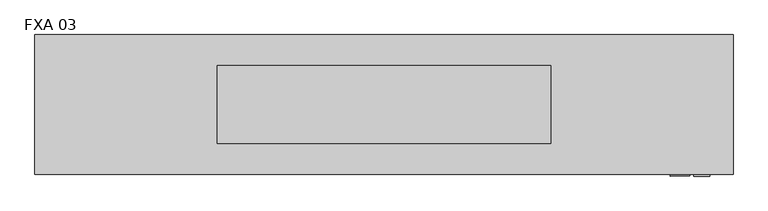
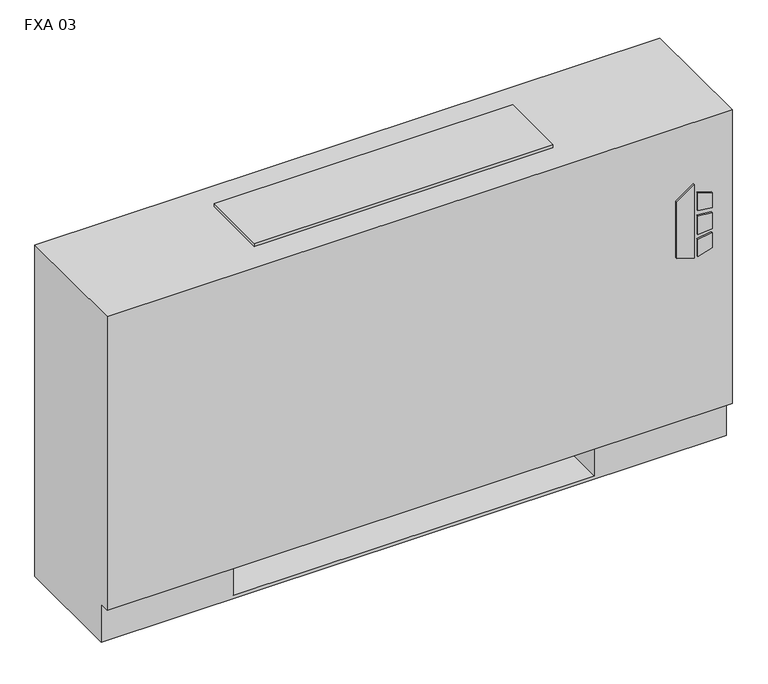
"""IFC4 building model written with IfcOpenShell, lengths in millimetres: proxy geometry, Vertical_Fan_Coil_Unit_-_FXA_-_IEC_-_2-Pipe_TS-FR_RH_2022 : FXA 03."""

from ifc_helpers import new_model, si_unit, point, frame, frame_2d, origin, place, context, project, spatial, polyline, circle_curve, trimmed, segment, composite_curve, outline, extrude, source, transform, mapped, element, save
from ifc_brep_helpers import plane_surface, revolved_surface, advanced_brep


def fxa_03_1cd07f17(model_context):
    return source(origin(), model_context, "Body", "SolidModel", [
        extrude(outline(polyline([(391.6086829, 620.7868862), (381.6606126, 652.9602728), (523.831537, 652.9602728), (500.8095309, 620.7868862), (391.6086829, 620.7868862)])), frame((0.0, 12.7, 0.0), z_axis=(0.0, 1.0, 0.0), x_axis=(0.0, 0.0, 1.0)), (0.0, 0.0, 1.0), 3.175),
        extrude(outline(polyline([(470.6079683, 659.7186058), (467.4055757, 685.8), (496.6344168, 685.8), (504.6988318, 659.7186058), (470.6079683, 659.7186058)])), frame((0.0, 12.7, 0.0), z_axis=(0.0, 1.0, 0.0), x_axis=(0.0, 0.0, 1.0)), (0.0, 0.0, 1.0), 3.175),
        extrude(outline(polyline([(418.7444414, 685.8), (415.0789404, 659.7186058), (381.6606126, 659.7186058), (390.2948498, 685.8), (418.7444414, 685.8)])), frame((0.0, 12.7, 0.0), z_axis=(0.0, 1.0, 0.0), x_axis=(0.0, 0.0, 1.0)), (0.0, 0.0, 1.0), 3.175),
        extrude(outline(polyline([(458.0596028, 685.8), (460.3414292, 659.7186058), (424.4038806, 659.7186058), (427.1451456, 685.8), (458.0596028, 685.8)])), frame((0.0, 12.7, 0.0), z_axis=(0.0, 1.0, 0.0), x_axis=(0.0, 0.0, 1.0)), (0.0, 0.0, 1.0), 3.175),
        extrude(outline(polyline([(-298.45, 81.534), (-298.45, 223.266), (-177.8, 223.266), (-177.8, 81.534), (-298.45, 81.534)])), frame((0.0, 0.0, 327.025), z_axis=(0.0, 0.0, 1.0), x_axis=(1.0, 0.0, 0.0)), (0.0, 0.0, 1.0), 260.35),
        extrude(outline(composite_curve([segment(trimmed(circle_curve(frame_2d((546.1, 130.175)), 9.525), [point((536.575, 130.175))], [point((555.625, 130.175))], False, "CARTESIAN"), True, "CONTINUOUS"), segment(trimmed(circle_curve(frame_2d((546.1, 130.175)), 9.525), [point((555.625, 130.175))], [point((536.575, 130.175))], False, "CARTESIAN"), True, "CONTINUOUS")], self_intersect=False)), frame((0.0, 0.0, 101.6), z_axis=(0.0, 0.0, 1.0), x_axis=(1.0, 0.0, 0.0)), (0.0, 0.0, 1.0), 25.4),
        extrude(outline(polyline([(641.35, 196.85), (641.35, 63.5), (482.6, 63.5), (482.6, 196.85), (641.35, 196.85)])), frame((0.0, 0.0, 127.0), z_axis=(0.0, 0.0, 1.0), x_axis=(1.0, 0.0, 0.0)), (0.0, 0.0, 1.0), 50.8),
        extrude(outline(composite_curve([segment(trimmed(circle_curve(frame_2d((93.1926, 485.5972)), 7.9375), [point((93.1926, 493.5347))], [point((93.1926, 477.6597))], False, "CARTESIAN"), True, "CONTINUOUS"), segment(trimmed(circle_curve(frame_2d((93.1926, 485.5972)), 7.9375), [point((93.1926, 477.6597))], [point((93.1926, 493.5347))], False, "CARTESIAN"), True, "CONTINUOUS")], self_intersect=False)), frame((482.6, 0.0, 0.0), z_axis=(1.0, 0.0, 0.0), x_axis=(0.0, 1.0, 0.0)), (0.0, 0.0, 1.0), 50.8),
        extrude(outline(composite_curve([segment(trimmed(circle_curve(frame_2d((141.3002, 458.9526)), 7.9375), [point((141.3002, 466.8901))], [point((141.3002, 451.0151))], False, "CARTESIAN"), True, "CONTINUOUS"), segment(trimmed(circle_curve(frame_2d((141.3002, 458.9526)), 7.9375), [point((141.3002, 451.0151))], [point((141.3002, 466.8901))], False, "CARTESIAN"), True, "CONTINUOUS")], self_intersect=False)), frame((482.6, 0.0, 0.0), z_axis=(1.0, 0.0, 0.0), x_axis=(0.0, 1.0, 0.0)), (0.0, 0.0, 1.0), 50.8),
        advanced_brep(
        [(723.9, 244.475, 641.35), (-419.1, 244.475, 641.35), (-419.1, 15.875, 641.35), (723.9, 15.875, 641.35), (-419.1, 244.475, 0.0), (723.9, 244.475, 0.0), (723.9, 34.925, 0.0), (-419.1, 34.925, 0.0), (482.6, 244.475, 73.025), (711.2, 244.475, 73.025), (711.2, 244.475, 628.65), (482.6, 244.475, 628.65), (482.6, 244.475, 414.8650565), (511.175, 244.475, 414.8650565), (511.175, 244.475, 385.2349435), (482.6, 244.475, 385.2349435), (482.6, 244.475, 287.3375), (511.175, 244.475, 287.3375), (511.175, 244.475, 258.7625), (482.6, 244.475, 258.7625), (482.6, 244.475, 141.2875), (511.175, 244.475, 141.2875), (511.175, 244.475, 112.7125), (482.6, 244.475, 112.7125), (-177.8, 244.475, 628.65), (-406.4, 244.475, 628.65), (-406.4, 244.475, 73.025), (-177.8, 244.475, 73.025), (-177.8, 244.475, 112.7125), (-206.375, 244.475, 112.7125), (-206.375, 244.475, 141.2875), (-177.8, 244.475, 141.2875), (-177.8, 244.475, 258.7625), (-206.375, 244.475, 258.7625), (-206.375, 244.475, 287.3375), (-177.8, 244.475, 287.3375), (-177.8, 244.475, 385.2349435), (-206.375, 244.475, 385.2349435), (-206.375, 244.475, 414.8650565), (-177.8, 244.475, 414.8650565), (500.8626, 244.475, 127.0), (489.7374, 244.475, 127.0), (500.8626, 244.475, 400.05), (489.7374, 244.475, 400.05), (500.8626, 244.475, 273.05), (489.7374, 244.475, 273.05), (-184.9374, 244.475, 127.0), (-196.0626, 244.475, 127.0), (-184.9374, 244.475, 273.05), (-196.0626, 244.475, 273.05), (-184.9374, 244.475, 400.05), (-196.0626, 244.475, 400.05), (-419.1, 34.925, 73.025), (-419.1, 15.875, 73.025), (723.9, 15.875, 73.025), (723.9, 34.925, 73.025), (-177.8, 34.925, 73.025), (-177.8, 219.075, 73.025), (482.6, 219.075, 73.025), (482.6, 34.925, 73.025), (482.6, 34.925, 6.35), (-177.8, 34.925, 6.35), (482.6, 41.275, 628.65), (711.2, 41.275, 628.65), (711.2, 41.275, 73.025), (482.6, 41.275, 73.025), (-177.8, 41.275, 628.65), (-177.8, 41.275, 73.025), (-406.4, 41.275, 73.025), (-406.4, 41.275, 628.65), (482.6, 219.075, 73.025), (482.6, 238.125, 112.7125), (482.6, 238.125, 141.2875), (482.6, 238.125, 258.7625), (482.6, 238.125, 287.3375), (482.6, 238.125, 385.2349435), (482.6, 238.125, 414.8650565), (-177.8, 219.075, 73.025), (-177.8, 238.125, 414.8650565), (-177.8, 238.125, 385.2349435), (-177.8, 238.125, 287.3375), (-177.8, 238.125, 258.7625), (-177.8, 238.125, 141.2875), (-177.8, 238.125, 112.7125), (-177.8, 219.075, 6.35), (482.6, 219.075, 6.35), (511.175, 238.125, 112.7125), (511.175, 238.125, 141.2875), (489.7374, 238.125, 127.0), (500.8626, 238.125, 127.0), (511.175, 238.125, 258.7625), (511.175, 238.125, 287.3375), (489.7374, 238.125, 273.05), (500.8626, 238.125, 273.05), (511.175, 238.125, 385.2349435), (511.175, 238.125, 414.8650565), (489.7374, 238.125, 400.05), (500.8626, 238.125, 400.05), (-206.375, 238.125, 141.2875), (-206.375, 238.125, 112.7125), (-196.0626, 238.125, 127.0), (-184.9374, 238.125, 127.0), (-206.375, 238.125, 287.3375), (-206.375, 238.125, 258.7625), (-196.0626, 238.125, 273.05), (-184.9374, 238.125, 273.05), (-206.375, 238.125, 414.8650565), (-206.375, 238.125, 385.2349435), (-196.0626, 238.125, 400.05), (-184.9374, 238.125, 400.05)],
        [
            (0, 1),
            (1, 2),
            (2, 3),
            (3, 0),
            (4, 5),
            (5, 6),
            (6, 7),
            (7, 4),
            (0, 5),
            (4, 1),
            (8, 9),
            (9, 10),
            (10, 11),
            (11, 12),
            (12, 13),
            (13, 14),
            (14, 15),
            (15, 16),
            (16, 17),
            (17, 18),
            (18, 19),
            (19, 20),
            (20, 21),
            (21, 22),
            (22, 23),
            (23, 8),
            (24, 25),
            (25, 26),
            (26, 27),
            (27, 28),
            (28, 29),
            (29, 30),
            (30, 31),
            (31, 32),
            (32, 33),
            (33, 34),
            (34, 35),
            (35, 36),
            (36, 37),
            (37, 38),
            (38, 39),
            (39, 24),
            (40, 41, circle_curve(frame((495.3, 244.475, 127.0), z_axis=(0.0, -1.0, 0.0), x_axis=(-1.0, 0.0, 0.0)), 5.5626)),
            (41, 40, circle_curve(frame((495.3, 244.475, 127.0), z_axis=(0.0, -1.0, 0.0), x_axis=(-1.0, 0.0, 0.0)), 5.5626)),
            (42, 43, circle_curve(frame((495.3, 244.475, 400.05), z_axis=(0.0, -1.0, 0.0), x_axis=(-1.0, 0.0, 0.0)), 5.5626)),
            (43, 42, circle_curve(frame((495.3, 244.475, 400.05), z_axis=(0.0, -1.0, 0.0), x_axis=(-1.0, 0.0, 0.0)), 5.5626)),
            (44, 45, circle_curve(frame((495.3, 244.475, 273.05), z_axis=(0.0, -1.0, 0.0), x_axis=(-1.0, 0.0, 0.0)), 5.5626)),
            (45, 44, circle_curve(frame((495.3, 244.475, 273.05), z_axis=(0.0, -1.0, 0.0), x_axis=(-1.0, 0.0, 0.0)), 5.5626)),
            (46, 47, circle_curve(frame((-190.5, 244.475, 127.0), z_axis=(0.0, -1.0, 0.0), x_axis=(-1.0, 0.0, 0.0)), 5.5626)),
            (47, 46, circle_curve(frame((-190.5, 244.475, 127.0), z_axis=(0.0, -1.0, 0.0), x_axis=(-1.0, 0.0, 0.0)), 5.5626)),
            (48, 49, circle_curve(frame((-190.5, 244.475, 273.05), z_axis=(0.0, -1.0, 0.0), x_axis=(-1.0, 0.0, 0.0)), 5.5626)),
            (49, 48, circle_curve(frame((-190.5, 244.475, 273.05), z_axis=(0.0, -1.0, 0.0), x_axis=(-1.0, 0.0, 0.0)), 5.5626)),
            (50, 51, circle_curve(frame((-190.5, 244.475, 400.05), z_axis=(0.0, -1.0, 0.0), x_axis=(-1.0, 0.0, 0.0)), 5.5626)),
            (51, 50, circle_curve(frame((-190.5, 244.475, 400.05), z_axis=(0.0, -1.0, 0.0), x_axis=(-1.0, 0.0, 0.0)), 5.5626)),
            (7, 52),
            (52, 53),
            (53, 2),
            (53, 54),
            (54, 3),
            (54, 55),
            (55, 6),
            (52, 56),
            (56, 57),
            (57, 58),
            (58, 59),
            (59, 55),
            (59, 60),
            (60, 61),
            (61, 56),
            (62, 63),
            (63, 64),
            (64, 65),
            (65, 62),
            (66, 67),
            (67, 68),
            (68, 69),
            (69, 66),
            (65, 70),
            (70, 8),
            (23, 71),
            (71, 72),
            (72, 20),
            (19, 73),
            (73, 74),
            (74, 16),
            (15, 75),
            (75, 76),
            (76, 12),
            (11, 62),
            (64, 9),
            (63, 10),
            (69, 25),
            (24, 66),
            (68, 26),
            (67, 77),
            (77, 27),
            (39, 78),
            (78, 79),
            (79, 36),
            (35, 80),
            (80, 81),
            (81, 32),
            (31, 82),
            (82, 83),
            (83, 28),
            (57, 84),
            (84, 85),
            (85, 58),
            (85, 60),
            (84, 61),
            (71, 86),
            (86, 87),
            (87, 72),
            (88, 89, circle_curve(frame((495.3, 238.125, 127.0), z_axis=(0.0, 1.0, 0.0), x_axis=(-1.0, 0.0, 0.0)), 5.5626)),
            (89, 88, circle_curve(frame((495.3, 238.125, 127.0), z_axis=(0.0, 1.0, 0.0), x_axis=(-1.0, 0.0, 0.0)), 5.5626)),
            (73, 90),
            (90, 91),
            (91, 74),
            (92, 93, circle_curve(frame((495.3, 238.125, 273.05), z_axis=(0.0, 1.0, 0.0), x_axis=(-1.0, 0.0, 0.0)), 5.5626)),
            (93, 92, circle_curve(frame((495.3, 238.125, 273.05), z_axis=(0.0, 1.0, 0.0), x_axis=(-1.0, 0.0, 0.0)), 5.5626)),
            (75, 94),
            (94, 95),
            (95, 76),
            (96, 97, circle_curve(frame((495.3, 238.125, 400.05), z_axis=(0.0, 1.0, 0.0), x_axis=(-1.0, 0.0, 0.0)), 5.5626)),
            (97, 96, circle_curve(frame((495.3, 238.125, 400.05), z_axis=(0.0, 1.0, 0.0), x_axis=(-1.0, 0.0, 0.0)), 5.5626)),
            (98, 99),
            (99, 83),
            (82, 98),
            (100, 101, circle_curve(frame((-190.5, 238.125, 127.0), z_axis=(0.0, 1.0, 0.0), x_axis=(-1.0, 0.0, 0.0)), 5.5626)),
            (101, 100, circle_curve(frame((-190.5, 238.125, 127.0), z_axis=(0.0, 1.0, 0.0), x_axis=(-1.0, 0.0, 0.0)), 5.5626)),
            (102, 103),
            (103, 81),
            (80, 102),
            (104, 105, circle_curve(frame((-190.5, 238.125, 273.05), z_axis=(0.0, 1.0, 0.0), x_axis=(-1.0, 0.0, 0.0)), 5.5626)),
            (105, 104, circle_curve(frame((-190.5, 238.125, 273.05), z_axis=(0.0, 1.0, 0.0), x_axis=(-1.0, 0.0, 0.0)), 5.5626)),
            (106, 107),
            (107, 79),
            (78, 106),
            (108, 109, circle_curve(frame((-190.5, 238.125, 400.05), z_axis=(0.0, 1.0, 0.0), x_axis=(-1.0, 0.0, 0.0)), 5.5626)),
            (109, 108, circle_curve(frame((-190.5, 238.125, 400.05), z_axis=(0.0, 1.0, 0.0), x_axis=(-1.0, 0.0, 0.0)), 5.5626)),
            (87, 21),
            (86, 22),
            (91, 17),
            (90, 18),
            (95, 13),
            (94, 14),
            (30, 98),
            (99, 29),
            (34, 102),
            (103, 33),
            (38, 106),
            (107, 37),
            (88, 41),
            (40, 89),
            (96, 43),
            (42, 97),
            (92, 45),
            (44, 93),
            (100, 47),
            (46, 101),
            (104, 49),
            (48, 105),
            (108, 51),
            (50, 109),
        ],
        [
            plane_surface(frame((-419.1, 244.475, 641.35), z_axis=(0.0, 0.0, 1.0), x_axis=(-1.0, 0.0, 0.0))),
            plane_surface(frame((-419.1, 244.475, 0.0), z_axis=(0.0, 0.0, -1.0), x_axis=(1.0, 0.0, 0.0))),
            plane_surface(frame((723.9, 244.475, 641.35), z_axis=(0.0, 1.0, 0.0), x_axis=(0.0, 0.0, -1.0))),
            plane_surface(frame((-419.1, 244.475, 641.35), z_axis=(-1.0, 0.0, 0.0), x_axis=(0.0, 0.0, -1.0))),
            plane_surface(frame((-419.1, 15.875, 641.35), z_axis=(0.0, -1.0, 0.0), x_axis=(0.0, 0.0, -1.0))),
            plane_surface(frame((723.9, 15.875, 641.35), z_axis=(1.0, 0.0, 0.0), x_axis=(0.0, 0.0, -1.0))),
            plane_surface(frame((-419.1, 15.875, 73.025), z_axis=(0.0, 0.0, -1.0), x_axis=(1.0, 0.0, 0.0))),
            plane_surface(frame((-419.1, 34.925, 73.025), z_axis=(0.0, -1.0, 0.0), x_axis=(1.0, 0.0, 0.0))),
            plane_surface(frame((482.6, 41.275, 628.65), z_axis=(0.0, 1.0, 0.0), x_axis=(0.0, 0.0, -1.0))),
            plane_surface(frame((482.6, 41.275, 628.65), z_axis=(1.0, 0.0, 0.0), x_axis=(0.0, 1.0, 0.0))),
            plane_surface(frame((482.6, 41.275, 73.025), z_axis=(0.0, 0.0, 1.0), x_axis=(0.0, 1.0, 0.0))),
            plane_surface(frame((711.2, 41.275, 73.025), z_axis=(-1.0, 0.0, 0.0), x_axis=(0.0, 1.0, 0.0))),
            plane_surface(frame((711.2, 41.275, 628.65), z_axis=(0.0, 0.0, -1.0), x_axis=(0.0, 1.0, 0.0))),
            plane_surface(frame((-177.8, 41.275, 628.65), z_axis=(0.0, 0.0, -1.0), x_axis=(0.0, 1.0, 0.0))),
            plane_surface(frame((-406.4, 41.275, 628.65), z_axis=(1.0, 0.0, 0.0), x_axis=(0.0, 1.0, 0.0))),
            plane_surface(frame((-406.4, 41.275, 73.025), z_axis=(0.0, 0.0, 1.0), x_axis=(0.0, 1.0, 0.0))),
            plane_surface(frame((-177.8, 41.275, 73.025), z_axis=(-1.0, 0.0, 0.0), x_axis=(0.0, 1.0, 0.0))),
            plane_surface(frame((482.6, 219.075, 73.025), z_axis=(0.0, -1.0, 0.0), x_axis=(0.0, 0.0, -1.0))),
            plane_surface(frame((482.6, 219.075, 73.025), z_axis=(-1.0, 0.0, 0.0), x_axis=(0.0, -1.0, 0.0))),
            plane_surface(frame((482.6, 219.075, 6.35), z_axis=(0.0, 0.0, 1.0), x_axis=(0.0, -1.0, 0.0))),
            plane_surface(frame((-177.8, 219.075, 6.35), z_axis=(1.0, 0.0, 0.0), x_axis=(0.0, -1.0, 0.0))),
            plane_surface(frame((511.175, 238.125, 141.2875), z_axis=(0.0, -1.0, 0.0), x_axis=(-1.0, 0.0, 0.0))),
            plane_surface(frame((482.6, 244.475, 141.2875), z_axis=(0.0, 0.0, 1.0), x_axis=(0.0, -1.0, 0.0))),
            plane_surface(frame((511.175, 244.475, 141.2875), z_axis=(1.0, 0.0, 0.0), x_axis=(0.0, -1.0, 0.0))),
            plane_surface(frame((511.175, 244.475, 112.7125), z_axis=(0.0, 0.0, -1.0), x_axis=(0.0, -1.0, 0.0))),
            plane_surface(frame((482.6, 244.475, 287.3375), z_axis=(0.0, 0.0, 1.0), x_axis=(0.0, -1.0, 0.0))),
            plane_surface(frame((511.175, 244.475, 287.3375), z_axis=(1.0, 0.0, 0.0), x_axis=(0.0, -1.0, 0.0))),
            plane_surface(frame((511.175, 244.475, 258.7625), z_axis=(0.0, 0.0, -1.0), x_axis=(0.0, -1.0, 0.0))),
            plane_surface(frame((482.6, 244.475, 414.8650565), z_axis=(0.0, 0.0, 1.0), x_axis=(0.0, -1.0, 0.0))),
            plane_surface(frame((511.175, 244.475, 414.8650565), z_axis=(1.0, 0.0, 0.0), x_axis=(0.0, -1.0, 0.0))),
            plane_surface(frame((511.175, 244.475, 385.2349435), z_axis=(0.0, 0.0, -1.0), x_axis=(0.0, -1.0, 0.0))),
            plane_surface(frame((-206.375, 244.475, 141.2875), z_axis=(0.0, 0.0, 1.0), x_axis=(0.0, -1.0, 0.0))),
            plane_surface(frame((-177.8, 244.475, 112.7125), z_axis=(0.0, 0.0, -1.0), x_axis=(0.0, -1.0, 0.0))),
            plane_surface(frame((-206.375, 244.475, 112.7125), z_axis=(-1.0, 0.0, 0.0), x_axis=(0.0, -1.0, 0.0))),
            plane_surface(frame((-206.375, 244.475, 287.3375), z_axis=(0.0, 0.0, 1.0), x_axis=(0.0, -1.0, 0.0))),
            plane_surface(frame((-177.8, 244.475, 258.7625), z_axis=(0.0, 0.0, -1.0), x_axis=(0.0, -1.0, 0.0))),
            plane_surface(frame((-206.375, 244.475, 258.7625), z_axis=(-1.0, 0.0, 0.0), x_axis=(0.0, -1.0, 0.0))),
            plane_surface(frame((-206.375, 244.475, 414.8650565), z_axis=(0.0, 0.0, 1.0), x_axis=(0.0, -1.0, 0.0))),
            plane_surface(frame((-177.8, 244.475, 385.2349435), z_axis=(0.0, 0.0, -1.0), x_axis=(0.0, -1.0, 0.0))),
            plane_surface(frame((-206.375, 244.475, 385.2349435), z_axis=(-1.0, 0.0, 0.0), x_axis=(0.0, -1.0, 0.0))),
            revolved_surface(polyline([(489.73740000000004, 238.125, 127.0), (489.73740000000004, 244.475, 127.0)]), (495.3, 244.475, 127.0), (0.0, -1.0, 0.0)),
            revolved_surface(polyline([(489.73740000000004, 238.125, 400.05), (489.73740000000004, 244.475, 400.05)]), (495.3, 244.475, 400.05), (0.0, -1.0, 0.0)),
            revolved_surface(polyline([(489.73740000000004, 238.125, 273.05), (489.73740000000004, 244.475, 273.05)]), (495.3, 244.475, 273.05), (0.0, -1.0, 0.0)),
            revolved_surface(polyline([(-196.0626, 238.125, 127.0), (-196.0626, 244.475, 127.0)]), (-190.5, 244.475, 127.0), (0.0, -1.0, 0.0)),
            revolved_surface(polyline([(-196.0626, 238.125, 273.05), (-196.0626, 244.475, 273.05)]), (-190.5, 244.475, 273.05), (0.0, -1.0, 0.0)),
            revolved_surface(polyline([(-196.0626, 238.125, 400.05), (-196.0626, 244.475, 400.05)]), (-190.5, 244.475, 400.05), (0.0, -1.0, 0.0)),
        ],
        [
            (0, [[1, 2, 3, 4]]),
            (1, [[5, 6, 7, 8]]),
            (2, [[-1, 9, -5, 10], [11, 12, 13, 14, 15, 16, 17, 18, 19, 20, 21, 22, 23, 24, 25, 26], [27, 28, 29, 30, 31, 32, 33, 34, 35, 36, 37, 38, 39, 40, 41, 42], [43, 44], [45, 46], [47, 48], [49, 50], [51, 52], [53, 54]]),
            (3, [[-2, -10, -8, 55, 56, 57]]),
            (4, [[-3, -57, 58, 59]]),
            (5, [[-4, -59, 60, 61, -6, -9]]),
            (6, [[-56, 62, 63, 64, 65, 66, -60, -58]]),
            (7, [[-7, -61, -66, 67, 68, 69, -62, -55]]),
            (8, [[70, 71, 72, 73]]),
            (8, [[74, 75, 76, 77]]),
            (9, [[-73, 78, 79, -26, 80, 81, 82, -22, 83, 84, 85, -18, 86, 87, 88, -14, 89]]),
            (10, [[-72, 90, -11, -79, -78]]),
            (11, [[-71, 91, -12, -90]]),
            (12, [[-70, -89, -13, -91]]),
            (13, [[-77, 92, -27, 93]]),
            (14, [[-76, 94, -28, -92]]),
            (15, [[-75, 95, 96, -29, -94]]),
            (16, [[-74, -93, -42, 97, 98, 99, -38, 100, 101, 102, -34, 103, 104, 105, -30, -96, -95]]),
            (17, [[-64, 106, 107, 108]]),
            (18, [[-108, 109, -67, -65]]),
            (19, [[-107, 110, -68, -109]]),
            (20, [[-106, -63, -69, -110]]),
            (21, [[111, 112, 113, -81], [114, 115]]),
            (21, [[116, 117, 118, -84], [119, 120]]),
            (21, [[121, 122, 123, -87], [124, 125]]),
            (21, [[126, 127, -104, 128], [129, 130]]),
            (21, [[131, 132, -101, 133], [134, 135]]),
            (21, [[136, 137, -98, 138], [139, 140]]),
            (22, [[-113, 141, -23, -82]]),
            (23, [[-112, 142, -24, -141]]),
            (24, [[-111, -80, -25, -142]]),
            (25, [[-118, 143, -19, -85]]),
            (26, [[-117, 144, -20, -143]]),
            (27, [[-116, -83, -21, -144]]),
            (28, [[-123, 145, -15, -88]]),
            (29, [[-122, 146, -16, -145]]),
            (30, [[-121, -86, -17, -146]]),
            (31, [[-128, -103, -33, 147]]),
            (32, [[-127, 148, -31, -105]]),
            (33, [[-126, -147, -32, -148]]),
            (34, [[-133, -100, -37, 149]]),
            (35, [[-132, 150, -35, -102]]),
            (36, [[-131, -149, -36, -150]]),
            (37, [[-138, -97, -41, 151]]),
            (38, [[-137, 152, -39, -99]]),
            (39, [[-136, -151, -40, -152]]),
            (40, [[153, -43, 154, -114]]),
            (40, [[-153, -115, -154, -44]]),
            (41, [[155, -45, 156, -124]]),
            (41, [[-155, -125, -156, -46]]),
            (42, [[157, -47, 158, -119]]),
            (42, [[-157, -120, -158, -48]]),
            (43, [[159, -49, 160, -129]]),
            (43, [[-159, -130, -160, -50]]),
            (44, [[161, -51, 162, -134]]),
            (44, [[-161, -135, -162, -52]]),
            (45, [[163, -53, 164, -139]]),
            (45, [[-163, -140, -164, -54]]),
        ],
    ),
        extrude(outline(polyline([(425.45, 193.675), (425.45, 66.675), (-120.65, 66.675), (-120.65, 193.675), (425.45, 193.675)])), frame((0.0, 0.0, 641.35), z_axis=(0.0, 0.0, 1.0), x_axis=(1.0, 0.0, 0.0)), (0.0, 0.0, 1.0), 6.35),
    ])


if __name__ == "__main__":
    model = new_model("IFC4")
    model_context = context("Model", 3, world=origin())
    ifc_project = project(units=[si_unit("LENGTHUNIT", "METRE", prefix="MILLI")], contexts=[model_context])
    site = spatial("IfcSite", under=ifc_project)
    building = spatial("IfcBuilding", under=site)
    placement = place(None, origin())
    fxa_03_shape = fxa_03_1cd07f17(model_context)
    element("IfcBuildingElementProxy", 1, Name="Vertical_Fan_Coil_Unit_-_FXA_-_IEC_-_2-Pipe_TS-FR_RH_2022 : FXA 03", ObjectType="Vertical_Fan_Coil_Unit_-_FXA_-_IEC_-_2-Pipe_TS-FR_RH_2022 : FXA 03", at=placement, inside=building, context=model_context, shape_type="MappedRepresentation", body=[
        mapped(fxa_03_shape, transform((0.0, 0.0, 0.0), x_axis=(1.0, 0.0, 0.0), y_axis=(0.0, 1.0, 0.0), z_axis=(0.0, 0.0, 1.0))),
    ])
    save(model, "model.ifc")
